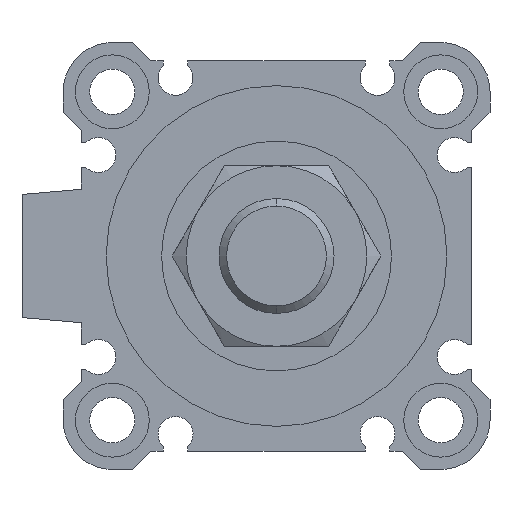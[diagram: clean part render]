
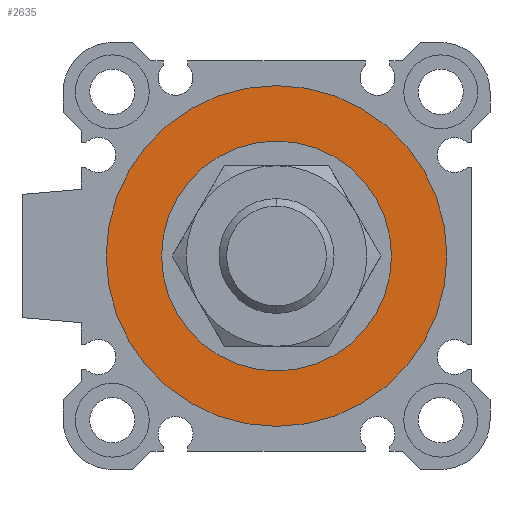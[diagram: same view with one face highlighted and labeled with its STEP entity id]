
A CAD part, left-side view. The second image highlights one B-rep face of the part: STEP entity #2635.
In plain terms, the highlighted planar face has unit normal (-1, 0, 0).
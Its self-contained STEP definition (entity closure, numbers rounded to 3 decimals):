
#81 = ORIENTED_EDGE ( 'NONE', *, *, #2772, .F. ) ;
#425 = CARTESIAN_POINT ( 'NONE',  ( 3.3, 0., -20.75 ) ) ;
#491 = ORIENTED_EDGE ( 'NONE', *, *, #3518, .F. ) ;
#562 = AXIS2_PLACEMENT_3D ( 'NONE', #1912, #2968, #3036 ) ;
#584 = CARTESIAN_POINT ( 'NONE',  ( 3.3, 0., 20.75 ) ) ;
#804 = CARTESIAN_POINT ( 'NONE',  ( 3.3, 0., 0. ) ) ;
#844 = FACE_BOUND ( 'NONE', #5827, .T. ) ;
#901 = AXIS2_PLACEMENT_3D ( 'NONE', #5345, #1599, #1565 ) ;
#1028 = CIRCLE ( 'NONE', #1823, 20.75 ) ;
#1565 = DIRECTION ( 'NONE',  ( 0., 0., -1. ) ) ;
#1578 = VERTEX_POINT ( 'NONE', #6984 ) ;
#1599 = DIRECTION ( 'NONE',  ( 1., 0., 0. ) ) ;
#1769 = CARTESIAN_POINT ( 'NONE',  ( 3.3, 0., 0. ) ) ;
#1823 = AXIS2_PLACEMENT_3D ( 'NONE', #2192, #4350, #5801 ) ;
#1908 = EDGE_CURVE ( 'NONE', #4353, #1578, #5421, .T. ) ;
#1912 = CARTESIAN_POINT ( 'NONE',  ( 3.3, 0., 0. ) ) ;
#1927 = AXIS2_PLACEMENT_3D ( 'NONE', #804, #1940, #3994 ) ;
#1940 = DIRECTION ( 'NONE',  ( 1., 0., 0. ) ) ;
#2004 = AXIS2_PLACEMENT_3D ( 'NONE', #1769, #3886, #3925 ) ;
#2192 = CARTESIAN_POINT ( 'NONE',  ( 3.3, 0., 0. ) ) ;
#2635 = ADVANCED_FACE ( 'NONE', ( #6333, #844 ), #4680, .F. ) ;
#2772 = EDGE_CURVE ( 'NONE', #5939, #3961, #2936, .T. ) ;
#2936 = CIRCLE ( 'NONE', #901, 20.75 ) ;
#2968 = DIRECTION ( 'NONE',  ( 1., 0., 0. ) ) ;
#2996 = ORIENTED_EDGE ( 'NONE', *, *, #1908, .T. ) ;
#3036 = DIRECTION ( 'NONE',  ( 0., 1., 0. ) ) ;
#3518 = EDGE_CURVE ( 'NONE', #3961, #5939, #1028, .T. ) ;
#3886 = DIRECTION ( 'NONE',  ( 1., 0., 0. ) ) ;
#3925 = DIRECTION ( 'NONE',  ( 0., 0., -1. ) ) ;
#3961 = VERTEX_POINT ( 'NONE', #425 ) ;
#3994 = DIRECTION ( 'NONE',  ( 0., 0., -1. ) ) ;
#4350 = DIRECTION ( 'NONE',  ( 1., 0., 0. ) ) ;
#4353 = VERTEX_POINT ( 'NONE', #4354 ) ;
#4354 = CARTESIAN_POINT ( 'NONE',  ( 3.3, 0., 14. ) ) ;
#4680 = PLANE ( 'NONE',  #562 ) ;
#4902 = EDGE_CURVE ( 'NONE', #1578, #4353, #6515, .T. ) ;
#5345 = CARTESIAN_POINT ( 'NONE',  ( 3.3, 0., 0. ) ) ;
#5421 = CIRCLE ( 'NONE', #1927, 14. ) ;
#5801 = DIRECTION ( 'NONE',  ( 0., 0., -1. ) ) ;
#5827 = EDGE_LOOP ( 'NONE', ( #2996, #6542 ) ) ;
#5939 = VERTEX_POINT ( 'NONE', #584 ) ;
#6232 = EDGE_LOOP ( 'NONE', ( #81, #491 ) ) ;
#6333 = FACE_OUTER_BOUND ( 'NONE', #6232, .T. ) ;
#6515 = CIRCLE ( 'NONE', #2004, 14. ) ;
#6542 = ORIENTED_EDGE ( 'NONE', *, *, #4902, .T. ) ;
#6984 = CARTESIAN_POINT ( 'NONE',  ( 3.3, 0., -14. ) ) ;
